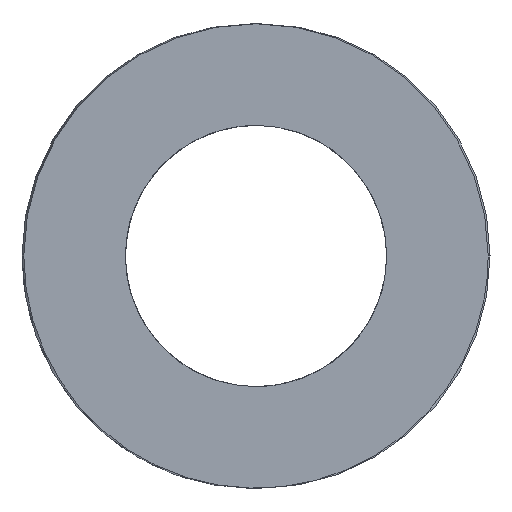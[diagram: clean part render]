
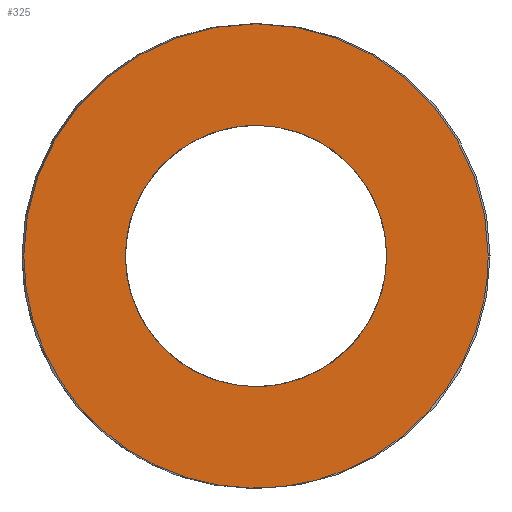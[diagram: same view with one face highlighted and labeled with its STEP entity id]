
A CAD part, left-side view. The second image highlights one B-rep face of the part: STEP entity #325.
In plain terms, the highlighted planar face has unit normal (-1, 0, 0).
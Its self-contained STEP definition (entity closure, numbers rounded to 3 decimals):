
#63=CARTESIAN_POINT('Vertex',(0.,18.75,0.)) ;
#89=CARTESIAN_POINT('Vertex',(0.,-18.75,0.)) ;
#93=CARTESIAN_POINT('Control Point',(0.,18.75,0.)) ;
#94=CARTESIAN_POINT('Control Point',(0.,18.75,-2.945)) ;
#95=CARTESIAN_POINT('Control Point',(0.,18.172,-5.89)) ;
#96=CARTESIAN_POINT('Control Point',(0.,17.015,-8.684)) ;
#97=CARTESIAN_POINT('Control Point',(0.,13.667,-13.667)) ;
#98=CARTESIAN_POINT('Control Point',(0.,8.684,-17.015)) ;
#99=CARTESIAN_POINT('Control Point',(0.,5.89,-18.172)) ;
#100=CARTESIAN_POINT('Control Point',(0.,0.,-19.328)) ;
#101=CARTESIAN_POINT('Control Point',(0.,-5.89,-18.172)) ;
#102=CARTESIAN_POINT('Control Point',(0.,-8.684,-17.015)) ;
#103=CARTESIAN_POINT('Control Point',(0.,-13.667,-13.667)) ;
#104=CARTESIAN_POINT('Control Point',(0.,-17.015,-8.684)) ;
#105=CARTESIAN_POINT('Control Point',(0.,-18.172,-5.89)) ;
#106=CARTESIAN_POINT('Control Point',(0.,-18.75,-2.945)) ;
#107=CARTESIAN_POINT('Control Point',(0.,-18.75,0.)) ;
#121=CARTESIAN_POINT('Axis2P3D Location',(0.,0.,0.)) ;
#256=CARTESIAN_POINT('Axis2P3D Location',(0.,9.375,0.)) ;
#266=CARTESIAN_POINT('Control Point',(0.,0.,-10.55)) ;
#267=CARTESIAN_POINT('Control Point',(0.,0.955,-10.55)) ;
#268=CARTESIAN_POINT('Control Point',(0.,1.909,-10.442)) ;
#269=CARTESIAN_POINT('Control Point',(0.,2.848,-10.226)) ;
#270=CARTESIAN_POINT('Control Point',(0.,4.66,-9.585)) ;
#271=CARTESIAN_POINT('Control Point',(0.,6.283,-8.556)) ;
#272=CARTESIAN_POINT('Control Point',(0.,7.032,-7.952)) ;
#273=CARTESIAN_POINT('Control Point',(0.,8.381,-6.584)) ;
#274=CARTESIAN_POINT('Control Point',(0.,9.391,-4.949)) ;
#275=CARTESIAN_POINT('Control Point',(0.,9.801,-4.077)) ;
#276=CARTESIAN_POINT('Control Point',(0.,10.416,-2.257)) ;
#277=CARTESIAN_POINT('Control Point',(0.,10.61,-0.345)) ;
#278=CARTESIAN_POINT('Control Point',(0.,10.597,0.618)) ;
#279=CARTESIAN_POINT('Control Point',(0.,10.355,2.524)) ;
#280=CARTESIAN_POINT('Control Point',(0.,9.693,4.328)) ;
#281=CARTESIAN_POINT('Control Point',(0.,9.26,5.189)) ;
#282=CARTESIAN_POINT('Control Point',(0.,8.209,6.797)) ;
#283=CARTESIAN_POINT('Control Point',(0.,6.825,8.13)) ;
#284=CARTESIAN_POINT('Control Point',(0.,6.06,8.715)) ;
#285=CARTESIAN_POINT('Control Point',(0.,4.458,9.674)) ;
#286=CARTESIAN_POINT('Control Point',(0.,2.687,10.262)) ;
#287=CARTESIAN_POINT('Control Point',(0.,1.801,10.454)) ;
#288=CARTESIAN_POINT('Control Point',(0.,0.9,10.55)) ;
#289=CARTESIAN_POINT('Control Point',(0.,0.,10.55)) ;
#290=CARTESIAN_POINT('Vertex',(0.,0.,-10.55)) ;
#292=CARTESIAN_POINT('Vertex',(0.,0.,10.55)) ;
#296=CARTESIAN_POINT('Control Point',(0.,0.,10.55)) ;
#297=CARTESIAN_POINT('Control Point',(0.,-0.955,10.55)) ;
#298=CARTESIAN_POINT('Control Point',(0.,-1.909,10.442)) ;
#299=CARTESIAN_POINT('Control Point',(0.,-2.848,10.226)) ;
#300=CARTESIAN_POINT('Control Point',(0.,-4.66,9.585)) ;
#301=CARTESIAN_POINT('Control Point',(0.,-6.283,8.556)) ;
#302=CARTESIAN_POINT('Control Point',(0.,-7.032,7.952)) ;
#303=CARTESIAN_POINT('Control Point',(0.,-8.381,6.584)) ;
#304=CARTESIAN_POINT('Control Point',(0.,-9.391,4.949)) ;
#305=CARTESIAN_POINT('Control Point',(0.,-9.801,4.077)) ;
#306=CARTESIAN_POINT('Control Point',(0.,-10.416,2.257)) ;
#307=CARTESIAN_POINT('Control Point',(0.,-10.61,0.345)) ;
#308=CARTESIAN_POINT('Control Point',(0.,-10.597,-0.618)) ;
#309=CARTESIAN_POINT('Control Point',(0.,-10.355,-2.524)) ;
#310=CARTESIAN_POINT('Control Point',(0.,-9.693,-4.328)) ;
#311=CARTESIAN_POINT('Control Point',(0.,-9.26,-5.189)) ;
#312=CARTESIAN_POINT('Control Point',(0.,-8.209,-6.797)) ;
#313=CARTESIAN_POINT('Control Point',(0.,-6.825,-8.13)) ;
#314=CARTESIAN_POINT('Control Point',(0.,-6.06,-8.715)) ;
#315=CARTESIAN_POINT('Control Point',(0.,-4.458,-9.674)) ;
#316=CARTESIAN_POINT('Control Point',(0.,-2.687,-10.262)) ;
#317=CARTESIAN_POINT('Control Point',(0.,-1.801,-10.454)) ;
#318=CARTESIAN_POINT('Control Point',(0.,-0.9,-10.55)) ;
#319=CARTESIAN_POINT('Control Point',(0.,0.,-10.55)) ;
#122=DIRECTION('Axis2P3D Direction',(1.,-0.,0.)) ;
#257=DIRECTION('Axis2P3D Direction',(-1.,0.,0.)) ;
#258=DIRECTION('Axis2P3D XDirection',(0.,1.,0.)) ;
#123=AXIS2_PLACEMENT_3D('Circle Axis2P3D',#121,#122,$) ;
#259=AXIS2_PLACEMENT_3D('Plane Axis2P3D',#256,#257,#258) ;
#262=ORIENTED_EDGE('',*,*,#108,.T.) ;
#263=ORIENTED_EDGE('',*,*,#125,.T.) ;
#322=ORIENTED_EDGE('',*,*,#294,.T.) ;
#323=ORIENTED_EDGE('',*,*,#320,.T.) ;
#324=FACE_BOUND('',#321,.T.) ;
#325=ADVANCED_FACE('392-B40-076',(#264,#324),#260,.T.) ;
#92=B_SPLINE_CURVE_WITH_KNOTS('',5,(#93,#94,#95,#96,#97,#98,#99,#100,#101,#102,#103,#104,#105,#106,#107),.UNSPECIFIED.,.F.,.U.,(6,3,3,3,6),(-29.452,-14.726,0.,14.726,29.452),.UNSPECIFIED.) ;
#265=B_SPLINE_CURVE_WITH_KNOTS('',5,(#266,#267,#268,#269,#270,#271,#272,#273,#274,#275,#276,#277,#278,#279,#280,#281,#282,#283,#284,#285,#286,#287,#288,#289),.UNSPECIFIED.,.F.,.U.,(6,3,3,3,3,3,3,6),(0.,6.751,13.502,20.253,27.004,33.755,40.506,46.872),.UNSPECIFIED.) ;
#295=B_SPLINE_CURVE_WITH_KNOTS('',5,(#296,#297,#298,#299,#300,#301,#302,#303,#304,#305,#306,#307,#308,#309,#310,#311,#312,#313,#314,#315,#316,#317,#318,#319),.UNSPECIFIED.,.F.,.U.,(6,3,3,3,3,3,3,6),(0.,6.751,13.502,20.253,27.004,33.755,40.506,46.872),.UNSPECIFIED.) ;
#124=CIRCLE('generated circle',#123,18.75) ;
#108=EDGE_CURVE('',#64,#90,#92,.T.) ;
#125=EDGE_CURVE('',#90,#64,#124,.F.) ;
#294=EDGE_CURVE('',#291,#293,#265,.T.) ;
#320=EDGE_CURVE('',#293,#291,#295,.T.) ;
#261=EDGE_LOOP('',(#262,#263)) ;
#321=EDGE_LOOP('',(#322,#323)) ;
#264=FACE_OUTER_BOUND('',#261,.T.) ;
#260=PLANE('Plane',#259) ;
#64=VERTEX_POINT('',#63) ;
#90=VERTEX_POINT('',#89) ;
#291=VERTEX_POINT('',#290) ;
#293=VERTEX_POINT('',#292) ;
